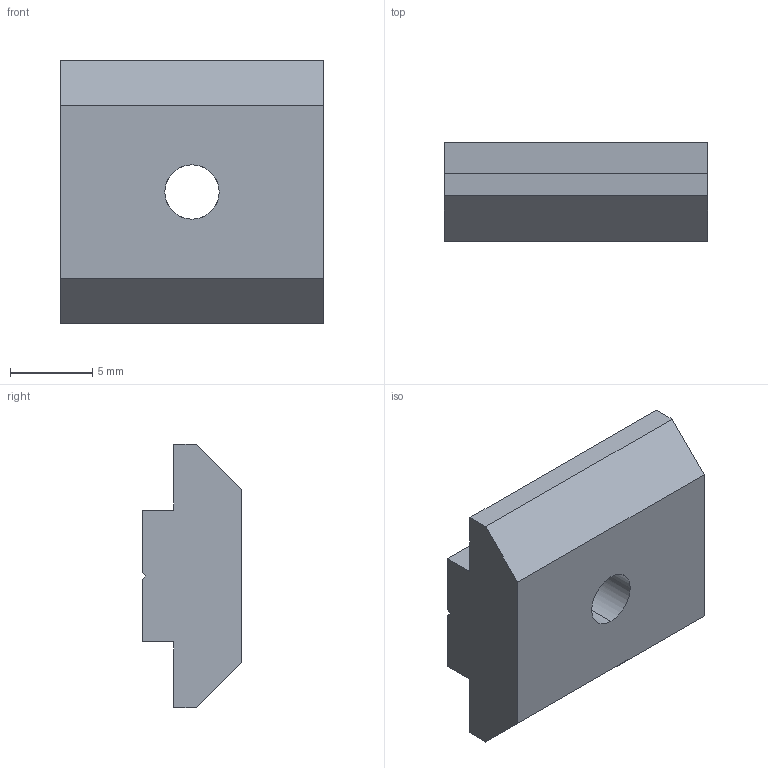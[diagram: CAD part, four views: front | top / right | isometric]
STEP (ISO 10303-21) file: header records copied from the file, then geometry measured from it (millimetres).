
FILE_DESCRIPTION (( 'STEP AP203' ), '1' );
FILE_NAME ('331070_Nutenstein Nut 8 M4 schwer.step', '2022-02-28T07:07:48', ( '' ), ( '' ), 'SwSTEP 2.0', 'SolidWorks 2021', '' );
FILE_SCHEMA (( 'CONFIG_CONTROL_DESIGN' ));
Length unit declared in the file: millimetre
Products named in the file (1): 331070_Nutenstein Nut 8 M4 schwer
Bounding box: 16 x 6 x 16 mm (x, y, z)
Volume: 1120 mm3; surface area: 846 mm2
Topology: 1 solids, 1 shells, 19 faces, 54 edges, 36 vertices
Faces by surface type: plane 17, cylinder 2
Entity records: 695 total; most frequent: CARTESIAN_POINT 122, ORIENTED_EDGE 108, DIRECTION 96, EDGE_CURVE 54, LINE 44, VECTOR 44, VERTEX_POINT 36, AXIS2_PLACEMENT_3D 26
